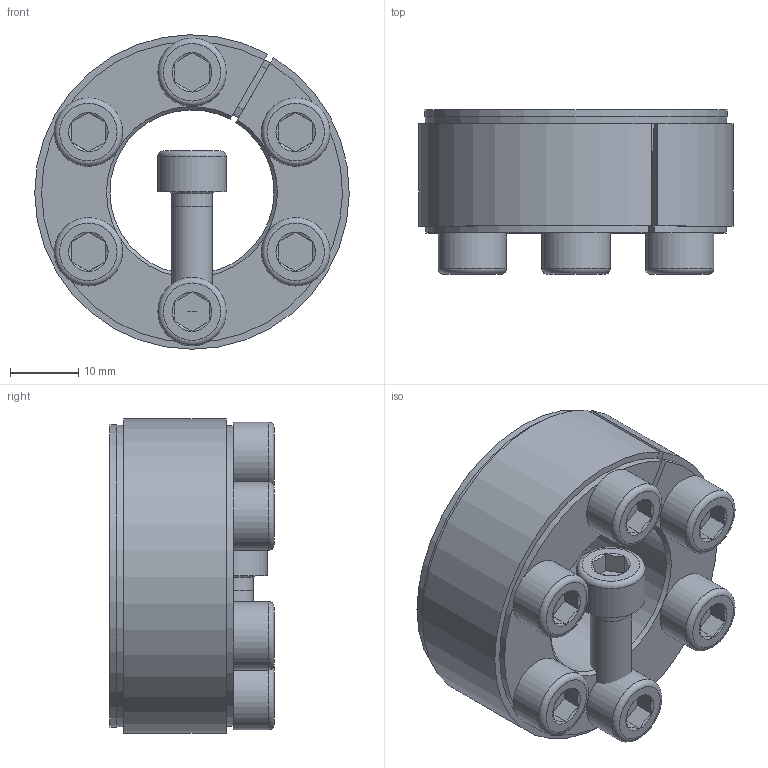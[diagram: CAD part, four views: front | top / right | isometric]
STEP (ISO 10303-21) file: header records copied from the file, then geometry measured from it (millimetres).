
FILE_DESCRIPTION( ( 'Unknown' ), '1' );
FILE_NAME( 'C:/Dokumente und Einstellungen/Sven/Desktop/homepage/cad - homepage/KBS52/KBS 52 - 24 x 46.stp', 'Unknown', ( 'Unknown' ), ( 'Unknown' ), 'XStep 1.0', 'Unknown', ' ' );
FILE_SCHEMA( ( 'automotive_design' ) );
Length unit declared in the file: millimetre
Products named in the file (3): Assem1; KBS 52 - 24 x 46; ISO EN DIN 4762 M6x18
Bounding box: 46 x 24 x 46 mm (x, y, z)
Volume: 42536.6 mm3; surface area: 21542.8 mm2
Topology: 9 solids, 9 shells, 227 faces, 453 edges, 270 vertices
Faces by surface type: plane 110, cone 55, cylinder 48, torus 14
Full cylindrical faces by diameter (mm): 5 x7, 6 x26, 10 x7, 44.175 x2
Entity records: 1645 total; most frequent: CARTESIAN_POINT 271, DIRECTION 247, ORIENTED_EDGE 188, AXIS2_PLACEMENT_3D 102, EDGE_CURVE 94, EDGE_LOOP 84, VERTEX_POINT 66, FACE_OUTER_BOUND 64
